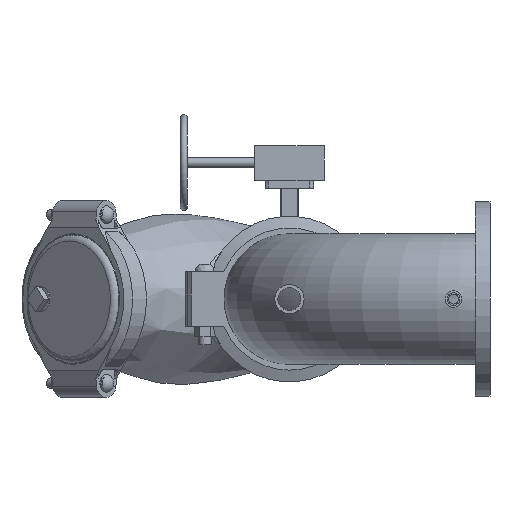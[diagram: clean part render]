
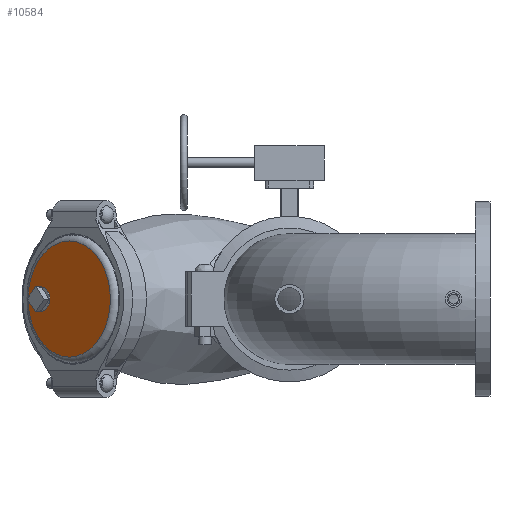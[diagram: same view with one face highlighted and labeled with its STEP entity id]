
A CAD part, front view. The second image highlights one B-rep face of the part: STEP entity #10584.
In plain terms, the highlighted planar face has unit normal (-0.707, -0.707, 0) as drawn and (1, 0, 0) by its records, which use the part's own axes.
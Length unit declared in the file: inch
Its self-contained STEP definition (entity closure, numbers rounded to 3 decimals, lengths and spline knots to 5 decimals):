
#2035=FACE_BOUND('',#3025,.T.);
#2396=FACE_OUTER_BOUND('',#3024,.T.);
#3024=EDGE_LOOP('',(#7834,#7835));
#3025=EDGE_LOOP('',(#7836));
#3659=CIRCLE('',#11702,1.);
#3667=CIRCLE('',#11713,4.781);
#3668=CIRCLE('',#11714,4.781);
#4470=VERTEX_POINT('',#21527);
#4478=VERTEX_POINT('',#21548);
#4479=VERTEX_POINT('',#21549);
#5684=EDGE_CURVE('',#4470,#4470,#3659,.T.);
#5693=EDGE_CURVE('',#4478,#4479,#3667,.T.);
#5694=EDGE_CURVE('',#4479,#4478,#3668,.T.);
#7834=ORIENTED_EDGE('',*,*,#5693,.T.);
#7835=ORIENTED_EDGE('',*,*,#5694,.T.);
#7836=ORIENTED_EDGE('',*,*,#5684,.T.);
#9545=PLANE('',#11716);
#10584=ADVANCED_FACE('',(#2396,#2035),#9545,.T.);
#11702=AXIS2_PLACEMENT_3D('',#21529,#13772,#13773);
#11713=AXIS2_PLACEMENT_3D('',#21550,#13795,#13796);
#11714=AXIS2_PLACEMENT_3D('',#21551,#13797,#13798);
#11716=AXIS2_PLACEMENT_3D('',#21553,#13801,#13802);
#13772=DIRECTION('center_axis',(-1.,0.,0.));
#13773=DIRECTION('ref_axis',(0.,0.,1.));
#13795=DIRECTION('center_axis',(1.,0.,0.));
#13796=DIRECTION('ref_axis',(0.,0.,-1.));
#13797=DIRECTION('center_axis',(1.,0.,0.));
#13798=DIRECTION('ref_axis',(0.,0.,-1.));
#13801=DIRECTION('center_axis',(1.,0.,0.));
#13802=DIRECTION('ref_axis',(0.,0.,-1.));
#21527=CARTESIAN_POINT('',(1.68,3.25,-1.));
#21529=CARTESIAN_POINT('Origin',(1.68,3.25,0.));
#21548=CARTESIAN_POINT('',(1.68,4.781,0.));
#21549=CARTESIAN_POINT('',(1.68,0.,4.781));
#21550=CARTESIAN_POINT('Origin',(1.68,0.,0.));
#21551=CARTESIAN_POINT('Origin',(1.68,0.,0.));
#21553=CARTESIAN_POINT('Origin',(1.68,0.,0.));
